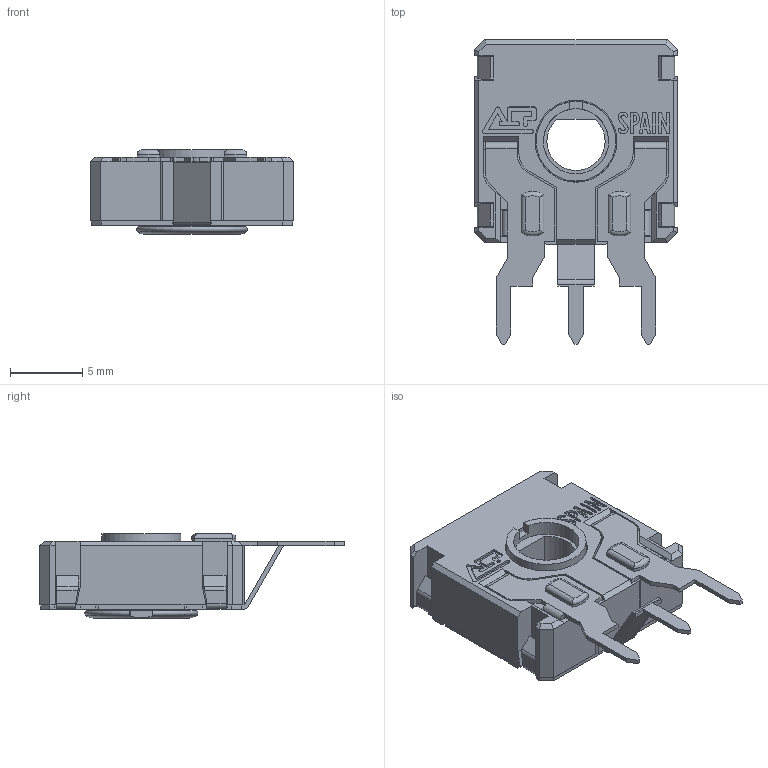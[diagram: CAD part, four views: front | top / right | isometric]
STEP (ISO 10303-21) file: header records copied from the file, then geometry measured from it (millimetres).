
FILE_DESCRIPTION(/* description */ (''),/* implementation_level */ '2;1');
FILE_NAME(/* name */ 'C:\Users\CEM\Desktop\ENVIAR\TRANSICION 3D CATALOGOS\CS14FH0.stp',/* time_stamp */ '2025-10-24T17:48:30+02:00',/* author */ ('CEM'),/* organization */ (''),/* preprocessor_version */ 'ST-DEVELOPER v17',/* originating_system */ 'Autodesk Inventor 2018',/* authorisation */ '');
FILE_SCHEMA (('AUTOMOTIVE_DESIGN { 1 0 10303 214 3 1 1 }'));
Length unit declared in the file: millimetre
Products named in the file (1): CS14FH0
Bounding box: 14 x 21 x 5.8 mm (x, y, z)
Volume: 546.9 mm3; surface area: 1589.2 mm2
Topology: 1 solids, 3 shells, 699 faces, 1965 edges, 1269 vertices
Faces by surface type: plane 536, cylinder 129, cone 15, bspline 10, torus 9
Full cylindrical faces by diameter (mm): 4.5 x1, 5.5 x1, 5.65 x1, 6.87 x1
Entity records: 23360 total; most frequent: CARTESIAN_POINT 4361, ORIENTED_EDGE 3930, DIRECTION 3645, EDGE_CURVE 1965, LINE 1555, VECTOR 1555, VERTEX_POINT 1269, AXIS2_PLACEMENT_3D 1045
